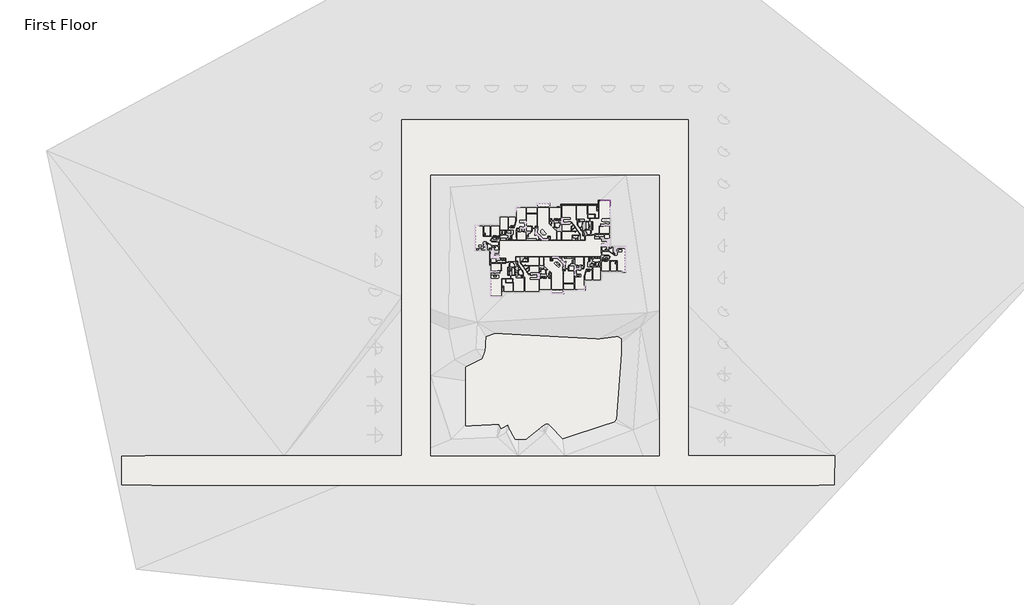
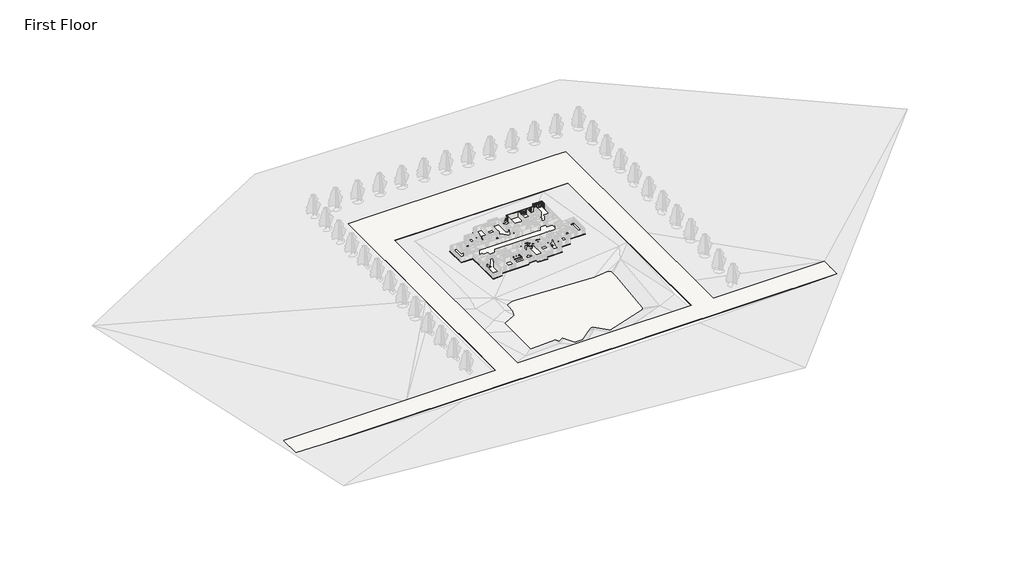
# One storey, part 12 of 17: 35 members, 25 slabs, 12 plates, 5 windows, 4 walls.
"""IFC4 building model written with IfcOpenShell, lengths in millimetres."""

from ifc_helpers import new_model, si_unit, point, frame, frame_2d, origin, place, context, project, spatial, polyline, circle_curve, trimmed, segment, composite_curve, outline, extrude, faceted_brep, transform, mapped, element, save
from components import rectangular_mullion_rectangular_mullion_1_c1bf3533, rectangular_mullion_rectangular_mullion_1_fa3625a1, rectangular_mullion_rectangular_mullion_1_a50b3cda, rectangular_mullion_rectangular_mullion_1_5cd4c5ac, rectangular_mullion_rectangular_mullion_1_7cbf0b94, rectangular_mullion_rectangular_mullion_1_1da01dff, rectangular_mullion_rectangular_mullion_1_6186cc23, rectangular_mullion_rectangular_mullion_1_049a2e78, system_panel_glazed_53e6f9fb, system_panel_glazed_0e039939, system_panel_glazed_cb820e14, system_panel_glazed_5b288161, window_33528cc2

model = new_model("IFC4")

# Units and contexts
model_context = context("Model", 3, world=origin())
ifc_project = project(units=[si_unit("LENGTHUNIT", "METRE", prefix="MILLI")], contexts=[model_context])

# Site, building, storey
site = spatial("IfcSite", under=ifc_project)
building = spatial("IfcBuilding", under=site)
storey = spatial("IfcBuildingStorey", under=building, Name="First Floor", Elevation=0.0)

# Members
placement = place(None, origin())
rectangular_mullion_rectangular_mullion_1_shape = rectangular_mullion_rectangular_mullion_1_c1bf3533(model_context)
element("IfcMember", 1, ObjectType="Rectangular Mullion : Rectangular Mullion 1", at=placement, inside=storey, context=model_context, shape_type="MappedRepresentation", body=[
    mapped(rectangular_mullion_rectangular_mullion_1_shape, transform((57092.6034229, 18983.9169819, 3048.0), x_axis=(0.0, 0.0, 1.0), y_axis=(0.0, -1.0, 0.0), z_axis=(1.0, 0.0, 0.0))),
])
rectangular_mullion_rectangular_mullion_1_2_shape = rectangular_mullion_rectangular_mullion_1_fa3625a1(model_context)
element("IfcMember", 2, ObjectType="Rectangular Mullion : Rectangular Mullion 1", at=placement, inside=storey, context=model_context, shape_type="MappedRepresentation", body=[
    mapped(rectangular_mullion_rectangular_mullion_1_2_shape, transform((54133.5034233, 18983.9169819, 3048.0), x_axis=(0.0, 0.0, 1.0), y_axis=(0.0, -1.0, 0.0), z_axis=(1.0, 0.0, 0.0))),
])
element("IfcMember", 3, ObjectType="Rectangular Mullion : Rectangular Mullion 1", at=placement, inside=storey, context=model_context, shape_type="MappedRepresentation", body=[
    mapped(rectangular_mullion_rectangular_mullion_1_2_shape, transform((55352.7034233, 18983.9169819, 3048.0), x_axis=(0.0, 0.0, 1.0), y_axis=(0.0, -1.0, 0.0), z_axis=(1.0, 0.0, 0.0))),
])
element("IfcMember", 4, ObjectType="Rectangular Mullion : Rectangular Mullion 1", at=placement, inside=storey, context=model_context, shape_type="MappedRepresentation", body=[
    mapped(rectangular_mullion_rectangular_mullion_1_2_shape, transform((56571.9034233, 18983.9169819, 3048.0), x_axis=(0.0, 0.0, 1.0), y_axis=(0.0, -1.0, 0.0), z_axis=(1.0, 0.0, 0.0))),
])
element("IfcMember", 5, ObjectType="Rectangular Mullion : Rectangular Mullion 1", at=placement, inside=storey, context=model_context, shape_type="MappedRepresentation", body=[
    mapped(rectangular_mullion_rectangular_mullion_1_2_shape, transform((57175.1534229, 17720.2669816, 3048.0), x_axis=(0.0, 0.0, 1.0), y_axis=(-1.0, 0.0, 0.0), z_axis=(0.0, -1.0, 0.0))),
])
element("IfcMember", 6, ObjectType="Rectangular Mullion : Rectangular Mullion 1", at=placement, inside=storey, context=model_context, shape_type="MappedRepresentation", body=[
    mapped(rectangular_mullion_rectangular_mullion_1_2_shape, transform((57175.1534229, 16501.0669816, 3048.0), x_axis=(0.0, 0.0, 1.0), y_axis=(-1.0, 0.0, 0.0), z_axis=(0.0, -1.0, 0.0))),
])
element("IfcMember", 7, ObjectType="Rectangular Mullion : Rectangular Mullion 1", at=placement, inside=storey, context=model_context, shape_type="MappedRepresentation", body=[
    mapped(rectangular_mullion_rectangular_mullion_1_2_shape, transform((52977.8034229, 18983.9169819, 0.0), x_axis=(0.0, 0.0, -1.0), y_axis=(0.0, -1.0, 0.0), z_axis=(-1.0, 0.0, 0.0))),
])
element("IfcMember", 8, ObjectType="Rectangular Mullion : Rectangular Mullion 1", at=placement, inside=storey, context=model_context, shape_type="MappedRepresentation", body=[
    mapped(rectangular_mullion_rectangular_mullion_1_2_shape, transform((54197.0034233, 18983.9169819, 0.0), x_axis=(0.0, 0.0, -1.0), y_axis=(0.0, -1.0, 0.0), z_axis=(-1.0, 0.0, 0.0))),
])
element("IfcMember", 9, ObjectType="Rectangular Mullion : Rectangular Mullion 1", at=placement, inside=storey, context=model_context, shape_type="MappedRepresentation", body=[
    mapped(rectangular_mullion_rectangular_mullion_1_2_shape, transform((55416.2034233, 18983.9169819, 0.0), x_axis=(0.0, 0.0, -1.0), y_axis=(0.0, -1.0, 0.0), z_axis=(-1.0, 0.0, 0.0))),
])
element("IfcMember", 10, ObjectType="Rectangular Mullion : Rectangular Mullion 1", at=placement, inside=storey, context=model_context, shape_type="MappedRepresentation", body=[
    mapped(rectangular_mullion_rectangular_mullion_1_2_shape, transform((57175.1534229, 18875.9669819, 0.0), x_axis=(0.0, 0.0, -1.0), y_axis=(-1.0, 0.0, 0.0), z_axis=(0.0, 1.0, 0.0))),
])
element("IfcMember", 11, ObjectType="Rectangular Mullion : Rectangular Mullion 1", at=placement, inside=storey, context=model_context, shape_type="MappedRepresentation", body=[
    mapped(rectangular_mullion_rectangular_mullion_1_2_shape, transform((57175.1534229, 17656.7669816, 0.0), x_axis=(0.0, 0.0, -1.0), y_axis=(-1.0, 0.0, 0.0), z_axis=(0.0, 1.0, 0.0))),
])
element("IfcMember", 12, ObjectType="Rectangular Mullion : Rectangular Mullion 1", at=placement, inside=storey, context=model_context, shape_type="MappedRepresentation", body=[
    mapped(rectangular_mullion_rectangular_mullion_1_2_shape, transform((57175.1534229, 16437.5669816, 0.0), x_axis=(0.0, 0.0, -1.0), y_axis=(-1.0, 0.0, 0.0), z_axis=(0.0, 1.0, 0.0))),
])
element("IfcMember", 13, ObjectType="Rectangular Mullion : Rectangular Mullion 1", at=placement, inside=storey, context=model_context, shape_type="MappedRepresentation", body=[
    mapped(rectangular_mullion_rectangular_mullion_1_shape, transform((56635.4034233, 18983.9169819, 0.0), x_axis=(0.0, 0.0, -1.0), y_axis=(0.0, -1.0, 0.0), z_axis=(-1.0, 0.0, 0.0))),
])
rectangular_mullion_rectangular_mullion_1_3_shape = rectangular_mullion_rectangular_mullion_1_a50b3cda(model_context)
element("IfcMember", 14, ObjectType="Rectangular Mullion : Rectangular Mullion 1", at=placement, inside=storey, context=model_context, shape_type="MappedRepresentation", body=[
    mapped(rectangular_mullion_rectangular_mullion_1_3_shape, transform((57156.1034229, 18983.9169819, 0.0), x_axis=(1.0, 0.0, 0.0), y_axis=(0.0, -1.0, 0.0), z_axis=(0.0, 0.0, -1.0))),
])
rectangular_mullion_rectangular_mullion_1_4_shape = rectangular_mullion_rectangular_mullion_1_5cd4c5ac(model_context)
element("IfcMember", 15, ObjectType="Rectangular Mullion : Rectangular Mullion 1", at=placement, inside=storey, context=model_context, shape_type="MappedRepresentation", body=[
    mapped(rectangular_mullion_rectangular_mullion_1_4_shape, transform((57156.1034229, 18983.9169819, 2165.35), x_axis=(1.0, 0.0, 0.0), y_axis=(0.0, -1.0, 0.0), z_axis=(0.0, 0.0, -1.0))),
])
element("IfcMember", 16, ObjectType="Rectangular Mullion : Rectangular Mullion 1", at=placement, inside=storey, context=model_context, shape_type="MappedRepresentation", body=[
    mapped(rectangular_mullion_rectangular_mullion_1_4_shape, transform((52914.3034229, 18983.9169819, 3048.0), x_axis=(-1.0, 0.0, 0.0), y_axis=(0.0, -1.0, 0.0), z_axis=(0.0, 0.0, 1.0))),
])
element("IfcMember", 17, ObjectType="Rectangular Mullion : Rectangular Mullion 1", at=placement, inside=storey, context=model_context, shape_type="MappedRepresentation", body=[
    mapped(rectangular_mullion_rectangular_mullion_1_4_shape, transform((57175.1534229, 18939.4669819, 3048.0), x_axis=(0.0, 1.0, 0.0), y_axis=(-1.0, 0.0, 0.0), z_axis=(0.0, 0.0, 1.0))),
])
element("IfcMember", 18, ObjectType="Rectangular Mullion : Rectangular Mullion 1", at=placement, inside=storey, context=model_context, shape_type="MappedRepresentation", body=[
    mapped(rectangular_mullion_rectangular_mullion_1_3_shape, transform((52914.3034229, 18983.9169819, 2165.35), x_axis=(-1.0, 0.0, 0.0), y_axis=(0.0, -1.0, 0.0), z_axis=(0.0, 0.0, 1.0))),
])
element("IfcMember", 19, ObjectType="Rectangular Mullion : Rectangular Mullion 1", at=placement, inside=storey, context=model_context, shape_type="MappedRepresentation", body=[
    mapped(rectangular_mullion_rectangular_mullion_1_3_shape, transform((57175.1534229, 18939.4669819, 2165.35), x_axis=(0.0, 1.0, 0.0), y_axis=(-1.0, 0.0, 0.0), z_axis=(0.0, 0.0, 1.0))),
])
rectangular_mullion_rectangular_mullion_1_5_shape = rectangular_mullion_rectangular_mullion_1_7cbf0b94(model_context)
element("IfcMember", 20, ObjectType="Rectangular Mullion : Rectangular Mullion 1", at=placement, inside=storey, context=model_context, shape_type="MappedRepresentation", body=[
    mapped(rectangular_mullion_rectangular_mullion_1_5_shape, transform((54133.5034233, 18983.9169819, 2165.35), x_axis=(0.0, 0.0, 1.0), y_axis=(0.0, -1.0, 0.0), z_axis=(1.0, 0.0, 0.0))),
])
element("IfcMember", 21, ObjectType="Rectangular Mullion : Rectangular Mullion 1", at=placement, inside=storey, context=model_context, shape_type="MappedRepresentation", body=[
    mapped(rectangular_mullion_rectangular_mullion_1_5_shape, transform((55352.7034233, 18983.9169819, 2165.35), x_axis=(0.0, 0.0, 1.0), y_axis=(0.0, -1.0, 0.0), z_axis=(1.0, 0.0, 0.0))),
])
element("IfcMember", 22, ObjectType="Rectangular Mullion : Rectangular Mullion 1", at=placement, inside=storey, context=model_context, shape_type="MappedRepresentation", body=[
    mapped(rectangular_mullion_rectangular_mullion_1_5_shape, transform((56571.9034233, 18983.9169819, 2165.35), x_axis=(0.0, 0.0, 1.0), y_axis=(0.0, -1.0, 0.0), z_axis=(1.0, 0.0, 0.0))),
])
element("IfcMember", 23, ObjectType="Rectangular Mullion : Rectangular Mullion 1", at=placement, inside=storey, context=model_context, shape_type="MappedRepresentation", body=[
    mapped(rectangular_mullion_rectangular_mullion_1_5_shape, transform((57175.1534229, 17720.2669816, 2165.35), x_axis=(0.0, 0.0, 1.0), y_axis=(-1.0, 0.0, 0.0), z_axis=(0.0, -1.0, 0.0))),
])
element("IfcMember", 24, ObjectType="Rectangular Mullion : Rectangular Mullion 1", at=placement, inside=storey, context=model_context, shape_type="MappedRepresentation", body=[
    mapped(rectangular_mullion_rectangular_mullion_1_5_shape, transform((57175.1534229, 16501.0669816, 2165.35), x_axis=(0.0, 0.0, 1.0), y_axis=(-1.0, 0.0, 0.0), z_axis=(0.0, -1.0, 0.0))),
])
rectangular_mullion_rectangular_mullion_1_6_shape = rectangular_mullion_rectangular_mullion_1_1da01dff(model_context)
element("IfcMember", 25, ObjectType="Rectangular Mullion : Rectangular Mullion 1", at=placement, inside=storey, context=model_context, shape_type="MappedRepresentation", body=[
    mapped(rectangular_mullion_rectangular_mullion_1_6_shape, transform((57092.6034229, 18983.9169819, 2165.35), x_axis=(0.0, 0.0, 1.0), y_axis=(0.0, -1.0, 0.0), z_axis=(1.0, 0.0, 0.0))),
])
rectangular_mullion_rectangular_mullion_1_7_shape = rectangular_mullion_rectangular_mullion_1_6186cc23(model_context)
element("IfcMember", 26, ObjectType="Rectangular Mullion : Rectangular Mullion 1", at=placement, inside=storey, context=model_context, shape_type="MappedRepresentation", body=[
    mapped(rectangular_mullion_rectangular_mullion_1_7_shape, transform((54165.2534233, 18983.9169819, 0.0), x_axis=(1.0, 0.0, 0.0), y_axis=(0.0, -1.0, 0.0), z_axis=(0.0, 0.0, -1.0))),
])
element("IfcMember", 27, ObjectType="Rectangular Mullion : Rectangular Mullion 1", at=placement, inside=storey, context=model_context, shape_type="MappedRepresentation", body=[
    mapped(rectangular_mullion_rectangular_mullion_1_7_shape, transform((55384.4534233, 18983.9169819, 0.0), x_axis=(1.0, 0.0, 0.0), y_axis=(0.0, -1.0, 0.0), z_axis=(0.0, 0.0, -1.0))),
])
element("IfcMember", 28, ObjectType="Rectangular Mullion : Rectangular Mullion 1", at=placement, inside=storey, context=model_context, shape_type="MappedRepresentation", body=[
    mapped(rectangular_mullion_rectangular_mullion_1_7_shape, transform((56603.6534233, 18983.9169819, 0.0), x_axis=(1.0, 0.0, 0.0), y_axis=(0.0, -1.0, 0.0), z_axis=(0.0, 0.0, -1.0))),
])
element("IfcMember", 29, ObjectType="Rectangular Mullion : Rectangular Mullion 1", at=placement, inside=storey, context=model_context, shape_type="MappedRepresentation", body=[
    mapped(rectangular_mullion_rectangular_mullion_1_7_shape, transform((57175.1534229, 17688.5169816, 0.0), x_axis=(0.0, -1.0, 0.0), y_axis=(-1.0, 0.0, 0.0), z_axis=(0.0, 0.0, -1.0))),
])
element("IfcMember", 30, ObjectType="Rectangular Mullion : Rectangular Mullion 1", at=placement, inside=storey, context=model_context, shape_type="MappedRepresentation", body=[
    mapped(rectangular_mullion_rectangular_mullion_1_7_shape, transform((57175.1534229, 16469.3169816, 0.0), x_axis=(0.0, -1.0, 0.0), y_axis=(-1.0, 0.0, 0.0), z_axis=(0.0, 0.0, -1.0))),
])
rectangular_mullion_rectangular_mullion_1_8_shape = rectangular_mullion_rectangular_mullion_1_049a2e78(model_context)
element("IfcMember", 31, ObjectType="Rectangular Mullion : Rectangular Mullion 1", at=placement, inside=storey, context=model_context, shape_type="MappedRepresentation", body=[
    mapped(rectangular_mullion_rectangular_mullion_1_8_shape, transform((54165.2534233, 18983.9169819, 2165.35), x_axis=(1.0, 0.0, 0.0), y_axis=(0.0, -1.0, 0.0), z_axis=(0.0, 0.0, -1.0))),
])
element("IfcMember", 32, ObjectType="Rectangular Mullion : Rectangular Mullion 1", at=placement, inside=storey, context=model_context, shape_type="MappedRepresentation", body=[
    mapped(rectangular_mullion_rectangular_mullion_1_8_shape, transform((55384.4534233, 18983.9169819, 2165.35), x_axis=(1.0, 0.0, 0.0), y_axis=(0.0, -1.0, 0.0), z_axis=(0.0, 0.0, -1.0))),
])
element("IfcMember", 33, ObjectType="Rectangular Mullion : Rectangular Mullion 1", at=placement, inside=storey, context=model_context, shape_type="MappedRepresentation", body=[
    mapped(rectangular_mullion_rectangular_mullion_1_8_shape, transform((56603.6534233, 18983.9169819, 2165.35), x_axis=(1.0, 0.0, 0.0), y_axis=(0.0, -1.0, 0.0), z_axis=(0.0, 0.0, -1.0))),
])
element("IfcMember", 34, ObjectType="Rectangular Mullion : Rectangular Mullion 1", at=placement, inside=storey, context=model_context, shape_type="MappedRepresentation", body=[
    mapped(rectangular_mullion_rectangular_mullion_1_8_shape, transform((57175.1534229, 17688.5169816, 2165.35), x_axis=(0.0, -1.0, 0.0), y_axis=(-1.0, 0.0, 0.0), z_axis=(0.0, 0.0, -1.0))),
])
element("IfcMember", 35, ObjectType="Rectangular Mullion : Rectangular Mullion 1", at=placement, inside=storey, context=model_context, shape_type="MappedRepresentation", body=[
    mapped(rectangular_mullion_rectangular_mullion_1_8_shape, transform((57175.1534229, 16469.3169816, 2165.35), x_axis=(0.0, -1.0, 0.0), y_axis=(-1.0, 0.0, 0.0), z_axis=(0.0, 0.0, -1.0))),
])

# Plates
system_panel_glazed_shape = system_panel_glazed_53e6f9fb(model_context)
element("IfcPlate", 36, ObjectType="System Panel : Glazed", at=placement, inside=storey, context=model_context, shape_type="MappedRepresentation", body=[
    mapped(system_panel_glazed_shape, transform((53555.6534231, 18983.9169819, 63.5), x_axis=(1.0, 0.0, 0.0), y_axis=(0.0, 1.0, 0.0), z_axis=(0.0, 0.0, 1.0))),
])
element("IfcPlate", 37, ObjectType="System Panel : Glazed", at=placement, inside=storey, context=model_context, shape_type="MappedRepresentation", body=[
    mapped(system_panel_glazed_shape, transform((57175.1534229, 18298.1169818, 63.5), x_axis=(0.0, -1.0, 0.0), y_axis=(1.0, 0.0, 0.0), z_axis=(0.0, 0.0, 1.0))),
])
element("IfcPlate", 38, ObjectType="System Panel : Glazed", at=placement, inside=storey, context=model_context, shape_type="MappedRepresentation", body=[
    mapped(system_panel_glazed_shape, transform((54774.8534233, 18983.9169819, 63.5), x_axis=(1.0, 0.0, 0.0), y_axis=(0.0, 1.0, 0.0), z_axis=(0.0, 0.0, 1.0))),
])
element("IfcPlate", 39, ObjectType="System Panel : Glazed", at=placement, inside=storey, context=model_context, shape_type="MappedRepresentation", body=[
    mapped(system_panel_glazed_shape, transform((55994.0534233, 18983.9169819, 63.5), x_axis=(1.0, 0.0, 0.0), y_axis=(0.0, 1.0, 0.0), z_axis=(0.0, 0.0, 1.0))),
])
element("IfcPlate", 40, ObjectType="System Panel : Glazed", at=placement, inside=storey, context=model_context, shape_type="MappedRepresentation", body=[
    mapped(system_panel_glazed_shape, transform((57175.1534229, 17078.9169816, 63.5), x_axis=(0.0, -1.0, 0.0), y_axis=(1.0, 0.0, 0.0), z_axis=(0.0, 0.0, 1.0))),
])
system_panel_glazed_2_shape = system_panel_glazed_0e039939(model_context)
element("IfcPlate", 41, ObjectType="System Panel : Glazed", at=placement, inside=storey, context=model_context, shape_type="MappedRepresentation", body=[
    mapped(system_panel_glazed_2_shape, transform((56864.0034231, 18983.9169819, 63.5), x_axis=(1.0, 0.0, 0.0), y_axis=(0.0, 1.0, 0.0), z_axis=(0.0, 0.0, 1.0))),
])
system_panel_glazed_3_shape = system_panel_glazed_cb820e14(model_context)
element("IfcPlate", 42, ObjectType="System Panel : Glazed", at=placement, inside=storey, context=model_context, shape_type="MappedRepresentation", body=[
    mapped(system_panel_glazed_3_shape, transform((53555.6534231, 18983.9169819, 2197.1), x_axis=(1.0, 0.0, 0.0), y_axis=(0.0, 1.0, 0.0), z_axis=(0.0, 0.0, 1.0))),
])
element("IfcPlate", 43, ObjectType="System Panel : Glazed", at=placement, inside=storey, context=model_context, shape_type="MappedRepresentation", body=[
    mapped(system_panel_glazed_3_shape, transform((54774.8534233, 18983.9169819, 2197.1), x_axis=(1.0, 0.0, 0.0), y_axis=(0.0, 1.0, 0.0), z_axis=(0.0, 0.0, 1.0))),
])
element("IfcPlate", 44, ObjectType="System Panel : Glazed", at=placement, inside=storey, context=model_context, shape_type="MappedRepresentation", body=[
    mapped(system_panel_glazed_3_shape, transform((55994.0534233, 18983.9169819, 2197.1), x_axis=(1.0, 0.0, 0.0), y_axis=(0.0, 1.0, 0.0), z_axis=(0.0, 0.0, 1.0))),
])
element("IfcPlate", 45, ObjectType="System Panel : Glazed", at=placement, inside=storey, context=model_context, shape_type="MappedRepresentation", body=[
    mapped(system_panel_glazed_3_shape, transform((57175.1534229, 18298.1169818, 2197.1), x_axis=(0.0, -1.0, 0.0), y_axis=(1.0, 0.0, 0.0), z_axis=(0.0, 0.0, 1.0))),
])
element("IfcPlate", 46, ObjectType="System Panel : Glazed", at=placement, inside=storey, context=model_context, shape_type="MappedRepresentation", body=[
    mapped(system_panel_glazed_3_shape, transform((57175.1534229, 17078.9169816, 2197.1), x_axis=(0.0, -1.0, 0.0), y_axis=(1.0, 0.0, 0.0), z_axis=(0.0, 0.0, 1.0))),
])
system_panel_glazed_4_shape = system_panel_glazed_5b288161(model_context)
element("IfcPlate", 47, ObjectType="System Panel : Glazed", at=placement, inside=storey, context=model_context, shape_type="MappedRepresentation", body=[
    mapped(system_panel_glazed_4_shape, transform((56864.0034231, 18983.9169819, 2197.1), x_axis=(1.0, 0.0, 0.0), y_axis=(0.0, 1.0, 0.0), z_axis=(0.0, 0.0, 1.0))),
])

# Slabs
element("IfcSlab", 48, ObjectType="Marble", at=placement, inside=storey, context=model_context, shape_type="SweptSolid", body=[
    extrude(outline(polyline([(6504.0261709, -1173.468869), (7494.6261709, -1173.468869), (7494.6261709, -1846.568869), (6504.0261709, -1846.568869), (6504.0261709, -1173.468869)]), holes=[composite_curve([segment(trimmed(circle_curve(frame_2d((6999.3261709, -1529.068869)), 203.2), [point((6796.1261709, -1529.068869))], [point((7202.5261708, -1529.068869))], True, "CARTESIAN"), True, "CONTINUOUS"), segment(trimmed(circle_curve(frame_2d((6999.3261709, -1529.068869)), 203.2), [point((7202.5261708, -1529.068869))], [point((6796.1261709, -1529.068869))], True, "CARTESIAN"), True, "CONTINUOUS")], self_intersect=False)]), frame((0.0, 0.0, 736.6), z_axis=(0.0, 0.0, 1.0), x_axis=(1.0, 0.0, 0.0)), (0.0, 0.0, 1.0), 38.1),
])
element("IfcSlab", 49, ObjectType="Marble", at=placement, inside=storey, context=model_context, shape_type="SweptSolid", body=[
    extrude(outline(polyline([(2093.0864714, 129.9694727), (3375.7864714, 129.9694727), (3375.7864714, -543.1305273), (2093.0864714, -543.1305273), (2093.0864714, 129.9694727)])), frame((0.0, 0.0, 876.3), z_axis=(0.0, 0.0, 1.0), x_axis=(1.0, 0.0, 0.0)), (0.0, 0.0, 1.0), 38.1),
])
element("IfcSlab", 50, ObjectType="Marble", at=placement, inside=storey, context=model_context, shape_type="SweptSolid", body=[
    extrude(outline(polyline([(4880.7003923, -1846.568869), (1191.3503923, -1846.568869), (1191.3503923, -1205.218869), (3957.3264687, -1205.218869), (4239.3503923, -923.1949454), (4239.3503923, -631.546226), (4880.7003923, -631.546226), (4880.7003923, -1846.568869)]), holes=[polyline([(3128.1003923, -1808.468869), (3128.1003923, -1275.068869), (2061.3003923, -1275.068869), (2061.3003923, -1808.468869), (3128.1003923, -1808.468869)])]), frame((0.0, 0.0, 876.3), z_axis=(0.0, 0.0, 1.0), x_axis=(1.0, 0.0, 0.0)), (0.0, 0.0, 1.0), 38.1),
    extrude(outline(polyline([(4239.3503923, 131.5202225), (4239.3503923, 598.1185137), (4880.7003923, 598.1185137), (4880.7003923, 131.5202225), (4239.3503923, 131.5202225)])), frame((0.0, 0.0, 876.3), z_axis=(0.0, 0.0, 1.0), x_axis=(1.0, 0.0, 0.0)), (0.0, 0.0, 1.0), 38.1),
])
element("IfcSlab", 51, ObjectType="Marble", at=placement, inside=storey, context=model_context, shape_type="SweptSolid", body=[
    extrude(outline(composite_curve([segment(polyline([(7170.3456159, -12486.5347765), (10488.6061289, -12486.5347765), (10488.6061289, -13305.0808673)]), True, "CONTINUOUS"), segment(trimmed(circle_curve(frame_2d((10183.8061289, -13305.0808673)), 304.8), [point((10488.6061289, -13305.0808673))], [point((10180.1154029, -13609.8585216))], False, "CARTESIAN"), True, "CONTINUOUS"), segment(polyline([(10180.1154029, -13609.8585216), (7170.3456159, -13609.8585216), (7170.3456159, -12486.5347765)]), True, "CONTINUOUS")], self_intersect=False), holes=[polyline([(9469.7910491, -13082.6391551), (9469.7910491, -12555.3066357), (8402.0211605, -12555.3066357), (8402.0211605, -13082.6391551), (9469.7910491, -13082.6391551)])]), frame((0.0, 0.0, 876.3), z_axis=(0.0, 0.0, 1.0), x_axis=(1.0, 0.0, 0.0)), (0.0, 0.0, 1.0), 38.1),
])
element("IfcSlab", 52, ObjectType="Marble", at=placement, inside=storey, context=model_context, shape_type="SweptSolid", body=[
    extrude(outline(polyline([(10127.0683728, -11419.8368662), (9246.0058728, -11419.8368662), (9246.0058728, -10794.1493344), (10127.0683728, -10794.1493344), (10127.0683728, -11419.8368662)])), frame((0.0, 0.0, 876.3), z_axis=(0.0, 0.0, 1.0), x_axis=(1.0, 0.0, 0.0)), (0.0, 0.0, 1.0), 38.1),
    extrude(outline(polyline([(8484.0058728, -11419.8368662), (7175.9058728, -11419.8368662), (7175.9058728, -10772.1368662), (8484.0058728, -10772.1368662), (8484.0058728, -11419.8368662)])), frame((0.0, 0.0, 876.3), z_axis=(0.0, 0.0, 1.0), x_axis=(1.0, 0.0, 0.0)), (0.0, 0.0, 1.0), 38.1),
])
element("IfcSlab", 53, ObjectType="Marble", at=placement, inside=storey, context=model_context, shape_type="SweptSolid", body=[
    extrude(outline(polyline([(13263.1799806, -6024.8371067), (12272.5799806, -6024.8371067), (12272.5799806, -5370.7871067), (13263.1799806, -5370.7871067), (13263.1799806, -6024.8371067)]), holes=[composite_curve([segment(trimmed(circle_curve(frame_2d((12767.8799806, -5669.2371067)), 203.2), [point((12971.0799806, -5669.2371067))], [point((12564.6799806, -5669.2371067))], True, "CARTESIAN"), True, "CONTINUOUS"), segment(trimmed(circle_curve(frame_2d((12767.8799806, -5669.2371067)), 203.2), [point((12564.6799806, -5669.2371067))], [point((12971.0799806, -5669.2371067))], True, "CARTESIAN"), True, "CONTINUOUS")], self_intersect=False)]), frame((0.0, 0.0, 736.6), z_axis=(0.0, 0.0, 1.0), x_axis=(1.0, 0.0, 0.0)), (0.0, 0.0, 1.0), 38.1),
])
element("IfcSlab", 54, ObjectType="Marble", at=placement, inside=storey, context=model_context, shape_type="SweptSolid", body=[
    extrude(outline(polyline([(17170.9691338, -12191.1493344), (17170.9691338, -10057.5493344), (17818.6691338, -10057.5493344), (17818.6691338, -12191.1493344), (17170.9691338, -12191.1493344)]), holes=[composite_curve([segment(trimmed(circle_curve(frame_2d((17501.1691338, -10590.9493344)), 203.2), [point((17704.3691338, -10590.9493344))], [point((17297.9691338, -10590.9493344))], True, "CARTESIAN"), True, "CONTINUOUS"), segment(trimmed(circle_curve(frame_2d((17501.1691338, -10590.9493344)), 203.2), [point((17297.9691338, -10590.9493344))], [point((17704.3691338, -10590.9493344))], True, "CARTESIAN"), True, "CONTINUOUS")], self_intersect=False), composite_curve([segment(trimmed(circle_curve(frame_2d((17501.1691338, -11657.7493344)), 203.2), [point((17704.3691338, -11657.7493344))], [point((17297.9691338, -11657.7493344))], True, "CARTESIAN"), True, "CONTINUOUS"), segment(trimmed(circle_curve(frame_2d((17501.1691338, -11657.7493344)), 203.2), [point((17297.9691338, -11657.7493344))], [point((17704.3691338, -11657.7493344))], True, "CARTESIAN"), True, "CONTINUOUS")], self_intersect=False)]), frame((0.0, 0.0, 736.6), z_axis=(0.0, 0.0, 1.0), x_axis=(1.0, 0.0, 0.0)), (0.0, 0.0, 1.0), 38.1),
])
element("IfcSlab", 55, ObjectType="Marble", at=placement, inside=storey, context=model_context, shape_type="SweptSolid", body=[
    extrude(outline(polyline([(26726.0365862, -12399.1051714), (26459.3365862, -12132.4051714), (26332.3365862, -12132.4051714), (26332.3365862, -11468.9236347), (27373.7365862, -11468.9236347), (27373.7365862, -14082.7941728), (23790.7886679, -14082.7941728), (23790.7886679, -13435.0941728), (26443.5550494, -13435.0941728), (26726.0365862, -13152.6126361), (26726.0365862, -12399.1051714)])), frame((0.0, 0.0, 876.3), z_axis=(0.0, 0.0, 1.0), x_axis=(1.0, 0.0, 0.0)), (0.0, 0.0, 1.0), 38.1),
    extrude(outline(polyline([(24811.2196169, -12116.6236347), (24811.2196169, -11468.9236347), (25573.2196169, -11468.9236347), (25573.2196169, -12116.6236347), (24811.2196169, -12116.6236347)])), frame((0.0, 0.0, 876.3), z_axis=(0.0, 0.0, 1.0), x_axis=(1.0, 0.0, 0.0)), (0.0, 0.0, 1.0), 38.1),
])
element("IfcSlab", 56, ObjectType="Marble", at=placement, inside=storey, context=model_context, shape_type="SweptSolid", body=[
    extrude(outline(polyline([(22564.103268, -5413.3917963), (21573.503268, -5413.3917963), (21573.503268, -4740.2917963), (22564.103268, -4740.2917963), (22564.103268, -5413.3917963)]), holes=[composite_curve([segment(trimmed(circle_curve(frame_2d((22068.803268, -5057.7917963)), 203.2), [point((22272.003268, -5057.7917963))], [point((21865.603268, -5057.7917963))], True, "CARTESIAN"), True, "CONTINUOUS"), segment(trimmed(circle_curve(frame_2d((22068.803268, -5057.7917963)), 203.2), [point((21865.603268, -5057.7917963))], [point((22272.003268, -5057.7917963))], True, "CARTESIAN"), True, "CONTINUOUS")], self_intersect=False)]), frame((0.0, 0.0, 736.6), z_axis=(0.0, 0.0, 1.0), x_axis=(1.0, 0.0, 0.0)), (0.0, 0.0, 1.0), 38.1),
])
element("IfcSlab", 57, ObjectType="Marble", at=placement, inside=storey, context=model_context, shape_type="SweptSolid", body=[
    extrude(outline(polyline([(29200.6971515, -9157.474445), (29200.6971515, -9798.824445), (28165.6471515, -9798.824445), (28165.6471515, -10808.474445), (27485.9749422, -10808.474445), (27488.0365862, -9155.3385671), (29200.6971515, -9157.474445)]), holes=[composite_curve([segment(trimmed(circle_curve(frame_2d((28664.1337351, -9476.076992)), 203.2), [point((28460.9338931, -9475.8235793))], [point((28867.3335771, -9476.3304048))], True, "CARTESIAN"), True, "CONTINUOUS"), segment(trimmed(circle_curve(frame_2d((28664.1337351, -9476.076992)), 203.2), [point((28867.3335771, -9476.3304048))], [point((28460.9338931, -9475.8235793))], True, "CARTESIAN"), True, "CONTINUOUS")], self_intersect=False), composite_curve([segment(trimmed(circle_curve(frame_2d((27822.5243209, -10271.6893858)), 203.2), [point((27619.324479, -10271.435973))], [point((28025.7241629, -10271.9427985))], True, "CARTESIAN"), True, "CONTINUOUS"), segment(trimmed(circle_curve(frame_2d((27822.5243209, -10271.6893858)), 203.2), [point((28025.7241629, -10271.9427985))], [point((27619.324479, -10271.435973))], True, "CARTESIAN"), True, "CONTINUOUS")], self_intersect=False)]), frame((0.0, 0.0, 736.6), z_axis=(0.0, 0.0, 1.0), x_axis=(1.0, 0.0, 0.0)), (0.0, 0.0, 1.0), 38.1),
])
element("IfcSlab", 58, ObjectType="Marble", at=placement, inside=storey, context=model_context, shape_type="SweptSolid", body=[
    extrude(outline(polyline([(50352.4508306, -7515.2417963), (49361.8508306, -7515.2417963), (49361.8508306, -6842.1417963), (50352.4508306, -6842.1417963), (50352.4508306, -7515.2417963)]), holes=[composite_curve([segment(trimmed(circle_curve(frame_2d((49857.1508306, -7159.6417963)), 203.2), [point((50060.3508306, -7159.6417963))], [point((49653.9508306, -7159.6417963))], True, "CARTESIAN"), True, "CONTINUOUS"), segment(trimmed(circle_curve(frame_2d((49857.1508306, -7159.6417963)), 203.2), [point((49653.9508306, -7159.6417963))], [point((50060.3508306, -7159.6417963))], True, "CARTESIAN"), True, "CONTINUOUS")], self_intersect=False)]), frame((0.0, 0.0, 736.6), z_axis=(0.0, 0.0, 1.0), x_axis=(1.0, 0.0, 0.0)), (0.0, 0.0, 1.0), 38.1),
])
element("IfcSlab", 59, ObjectType="Marble", at=placement, inside=storey, context=model_context, shape_type="SweptSolid", body=[
    extrude(outline(polyline([(57686.1282154, -1175.7137558), (56695.5282154, -1175.7137558), (56695.5282154, -485.1512558), (57686.1282154, -485.1512558), (57686.1282154, -1175.7137558)]), holes=[composite_curve([segment(trimmed(circle_curve(frame_2d((57190.8282154, -820.1137558)), 203.2), [point((57394.0282154, -820.1137558))], [point((56987.6282154, -820.1137558))], True, "CARTESIAN"), True, "CONTINUOUS"), segment(trimmed(circle_curve(frame_2d((57190.8282154, -820.1137558)), 203.2), [point((56987.6282154, -820.1137558))], [point((57394.0282154, -820.1137558))], True, "CARTESIAN"), True, "CONTINUOUS")], self_intersect=False)]), frame((0.0, 0.0, 736.6), z_axis=(0.0, 0.0, 1.0), x_axis=(1.0, 0.0, 0.0)), (0.0, 0.0, 1.0), 38.1),
])
element("IfcSlab", 60, ObjectType="Marble", at=placement, inside=storey, context=model_context, shape_type="SweptSolid", body=[
    extrude(outline(polyline([(55037.4914684, -4965.5451097), (56028.0914684, -4965.5451097), (56028.0914684, -5638.6451097), (55037.4914684, -5638.6451097), (55037.4914684, -4965.5451097)]), holes=[composite_curve([segment(trimmed(circle_curve(frame_2d((55532.7914684, -5321.1451097)), 203.2), [point((55329.5914684, -5321.1451097))], [point((55735.9914684, -5321.1451097))], True, "CARTESIAN"), True, "CONTINUOUS"), segment(trimmed(circle_curve(frame_2d((55532.7914684, -5321.1451097)), 203.2), [point((55735.9914684, -5321.1451097))], [point((55329.5914684, -5321.1451097))], True, "CARTESIAN"), True, "CONTINUOUS")], self_intersect=False)]), frame((0.0, 0.0, 736.6), z_axis=(0.0, 0.0, 1.0), x_axis=(1.0, 0.0, 0.0)), (0.0, 0.0, 1.0), 38.1),
])
element("IfcSlab", 61, ObjectType="Marble", at=placement, inside=storey, context=model_context, shape_type="SweptSolid", body=[
    extrude(outline(polyline([(52940.1152169, -5356.2417963), (50806.5152169, -5356.2417963), (50806.5152169, -4708.5417963), (52940.1152169, -4708.5417963), (52940.1152169, -5356.2417963)]), holes=[composite_curve([segment(trimmed(circle_curve(frame_2d((51339.9152169, -5026.0417963)), 203.2), [point((51339.9152169, -4822.8417963))], [point((51339.9152169, -5229.2417963))], True, "CARTESIAN"), True, "CONTINUOUS"), segment(trimmed(circle_curve(frame_2d((51339.9152169, -5026.0417963)), 203.2), [point((51339.9152169, -5229.2417963))], [point((51339.9152169, -4822.8417963))], True, "CARTESIAN"), True, "CONTINUOUS")], self_intersect=False), composite_curve([segment(trimmed(circle_curve(frame_2d((52406.7152169, -5026.0417963)), 203.2), [point((52406.7152169, -4822.8417963))], [point((52406.7152169, -5229.2417963))], True, "CARTESIAN"), True, "CONTINUOUS"), segment(trimmed(circle_curve(frame_2d((52406.7152169, -5026.0417963)), 203.2), [point((52406.7152169, -5229.2417963))], [point((52406.7152169, -4822.8417963))], True, "CARTESIAN"), True, "CONTINUOUS")], self_intersect=False)]), frame((0.0, 0.0, 736.6), z_axis=(0.0, 0.0, 1.0), x_axis=(1.0, 0.0, 0.0)), (0.0, 0.0, 1.0), 38.1),
])
element("IfcSlab", 62, ObjectType="Marble", at=placement, inside=storey, context=model_context, shape_type="SweptSolid", body=[
    extrude(outline(polyline([(18625.1191338, -10424.5404467), (18625.1191338, -11415.1404467), (17952.0191338, -11415.1404467), (17952.0191338, -10424.5404467), (18625.1191338, -10424.5404467)]), holes=[composite_curve([segment(trimmed(circle_curve(frame_2d((18269.5191338, -10919.8404467)), 203.2), [point((18269.5191338, -10716.6404467))], [point((18269.5191338, -11123.0404467))], True, "CARTESIAN"), True, "CONTINUOUS"), segment(trimmed(circle_curve(frame_2d((18269.5191338, -10919.8404467)), 203.2), [point((18269.5191338, -11123.0404467))], [point((18269.5191338, -10716.6404467))], True, "CARTESIAN"), True, "CONTINUOUS")], self_intersect=False)]), frame((0.0, 0.0, 736.6), z_axis=(0.0, 0.0, 1.0), x_axis=(1.0, 0.0, 0.0)), (0.0, 0.0, 1.0), 38.1),
])
element("IfcSlab", 63, ObjectType="Marble", at=placement, inside=storey, context=model_context, shape_type="SweptSolid", body=[
    extrude(outline(polyline([(42109.9470292, -4709.6547708), (42109.9470292, -5347.9350586), (37935.0254015, -5347.9350586), (37935.8278998, -4704.4491807), (42109.9470292, -4709.6547708)]), holes=[composite_curve([segment(trimmed(circle_curve(frame_2d((38444.5076506, -5036.7948647)), 203.2), [point((38241.3078086, -5036.541452))], [point((38647.7074926, -5037.0482775))], True, "CARTESIAN"), True, "CONTINUOUS"), segment(trimmed(circle_curve(frame_2d((38444.5076506, -5036.7948647)), 203.2), [point((38647.7074926, -5037.0482775))], [point((38241.3078086, -5036.541452))], True, "CARTESIAN"), True, "CONTINUOUS")], self_intersect=False), composite_curve([segment(trimmed(circle_curve(frame_2d((41597.5582188, -5037.9193913)), 203.2), [point((41394.3583769, -5037.6659786))], [point((41800.7580608, -5038.1728041))], True, "CARTESIAN"), True, "CONTINUOUS"), segment(trimmed(circle_curve(frame_2d((41597.5582188, -5037.9193913)), 203.2), [point((41800.7580608, -5038.1728041))], [point((41394.3583769, -5037.6659786))], True, "CARTESIAN"), True, "CONTINUOUS")], self_intersect=False)]), frame((0.0, 0.0, 736.6), z_axis=(0.0, 0.0, 1.0), x_axis=(1.0, 0.0, 0.0)), (0.0, 0.0, 1.0), 38.1),
])
element("IfcSlab", 64, ObjectType="Marble", at=placement, inside=storey, context=model_context, shape_type="SweptSolid", body=[
    extrude(outline(polyline([(35406.7151666, -4708.5417963), (36619.6310114, -5921.4576411), (36166.1280773, -6374.9605752), (35141.0592984, -5349.8917963), (33083.0966966, -5349.8917963), (33083.0966966, -4708.5417963), (35406.7151666, -4708.5417963)])), frame((0.0, 0.0, 876.3), z_axis=(0.0, 0.0, 1.0), x_axis=(1.0, 0.0, 0.0)), (0.0, 0.0, 1.0), 38.1),
])
element("IfcSlab", 65, ObjectType="Marble", at=placement, inside=storey, context=model_context, shape_type="SweptSolid", body=[
    extrude(outline(polyline([(36034.9998304, -8668.0806982), (35572.1975365, -9130.882992), (33803.0870807, -7361.7725362), (34265.8893745, -6898.9702424), (35154.2965233, -6898.9702424), (36034.9998304, -7779.6735494), (36034.9998304, -8668.0806982)]), holes=[polyline([(35919.7261131, -7763.1826495), (35169.8680031, -7013.3245394), (34793.7635972, -7389.4289453), (35543.6217072, -8139.2870553), (35919.7261131, -7763.1826495)])]), frame((0.0, 0.0, 876.3), z_axis=(0.0, 0.0, 1.0), x_axis=(1.0, 0.0, 0.0)), (0.0, 0.0, 1.0), 38.1),
])
element("IfcSlab", 66, ObjectType="Marble", at=placement, inside=storey, context=model_context, shape_type="SweptSolid", body=[
    extrude(outline(polyline([(38191.5400155, -7503.2714212), (38191.5400155, -8722.4714212), (37550.1900155, -8722.4714212), (37550.1900155, -7780.3116594), (36690.6351864, -6920.7568303), (37149.8303055, -6461.5617112), (38191.5400155, -7503.2714212)])), frame((0.0, 0.0, 876.3), z_axis=(0.0, 0.0, 1.0), x_axis=(1.0, 0.0, 0.0)), (0.0, 0.0, 1.0), 38.1),
])
element("IfcSlab", 67, ObjectType="Marble", at=placement, inside=storey, context=model_context, shape_type="SweptSolid", body=[
    extrude(outline(polyline([(62097.0679149, -2479.1520975), (60814.3679149, -2479.1520975), (60814.3679149, -1806.0520975), (62097.0679149, -1806.0520975), (62097.0679149, -2479.1520975)])), frame((0.0, 0.0, 876.3), z_axis=(0.0, 0.0, 1.0), x_axis=(1.0, 0.0, 0.0)), (0.0, 0.0, 1.0), 38.1),
])
element("IfcSlab", 68, ObjectType="Marble", at=placement, inside=storey, context=model_context, shape_type="SweptSolid", body=[
    extrude(outline(polyline([(44031.5501082, -10093.7376998), (43151.7983098, -10093.7376998), (42865.5970292, -10379.9389804), (42865.5970292, -10671.5876998), (42217.8970292, -10671.5876998), (42217.8970292, -9452.3876998), (44031.5501082, -9452.3876998), (44031.5501082, -10093.7376998)])), frame((0.0, 0.0, 876.3), z_axis=(0.0, 0.0, 1.0), x_axis=(1.0, 0.0, 0.0)), (0.0, 0.0, 1.0), 38.1),
    extrude(outline(polyline([(43145.4483098, -12005.0876998), (44916.6470292, -12005.0876998), (44916.6470292, -13046.2065732), (42217.8970292, -13046.2065732), (42217.8970292, -11433.5876998), (42865.5970292, -11433.5876998), (42865.5970292, -11725.2364192), (43145.4483098, -12005.0876998)]), holes=[polyline([(43202.4116618, -12614.4065732), (44273.2983112, -12614.4065732), (44273.2983112, -12081.2876998), (43202.4116618, -12081.2876998), (43202.4116618, -12614.4065732)])]), frame((0.0, 0.0, 876.3), z_axis=(0.0, 0.0, 1.0), x_axis=(1.0, 0.0, 0.0)), (0.0, 0.0, 1.0), 38.1),
])
element("IfcSlab", 69, ObjectType="Marble", at=placement, inside=storey, context=model_context, shape_type="SweptSolid", body=[
    extrude(outline(polyline([(23927.3000259, -12349.6936972), (23602.9271341, -12349.6936972), (23302.1554503, -11920.1472165), (23927.3000259, -11482.4162723), (23927.3000259, -12349.6936972)])), frame((0.0, 0.0, 876.3), z_axis=(0.0, 0.0, 1.0), x_axis=(1.0, 0.0, 0.0)), (0.0, 0.0, 1.0), 38.1),
])
element("IfcSlab", 70, ObjectType="Pad 1", at=placement, inside=storey, context=model_context, shape_type="SweptSolid", body=[
    extrude(outline(polyline([(-17909.1723407, 52775.2601355), (83444.2270808, 52775.2601355), (89852.8460487, 52775.2601355), (89852.8460487, -88050.3872256), (151203.4030077, -88050.3872256), (151203.4030077, -100242.3872256), (-147500.5969923, -100242.3872256), (-147500.5969923, -88050.3872256), (-30101.1723407, -88050.3872256), (-30101.1723407, 52775.2601355), (-17909.1723407, 52775.2601355)]), holes=[polyline([(77660.8460487, 29542.5920526), (-17909.1723407, 29542.5920526), (-17909.1723407, -88050.3872256), (77660.8460487, -88050.3872256), (77660.8460487, 29542.5920526)])]), frame((0.0, 0.0, -304.8), z_axis=(0.0, 0.0, 1.0), x_axis=(1.0, 0.0, 0.0)), (0.0, 0.0, 1.0), 304.8),
])
element("IfcSlab", 71, ObjectType="Water", at=placement, inside=storey, context=model_context, shape_type="SweptSolid", body=[
    extrude(outline(polyline([(61901.3712704, -36383.2921444), (61901.3712704, -81042.9995612), (-3275.795358, -81042.9995612), (-3275.795358, -36383.2921444), (61901.3712704, -36383.2921444)])), frame((0.0, 0.0, -4610.1), z_axis=(0.0, 0.0, 1.0), x_axis=(1.0, 0.0, 0.0)), (0.0, 0.0, 1.0), 38.1),
])
element("IfcSlab", 72, ObjectType="Wood Joist 10\" - Wood Finish", at=placement, inside=storey, context=model_context, shape_type="SweptSolid", body=[
    extrude(outline(polyline([(6887.7706159, -21474.3871067), (6887.7706159, -16921.6996859), (6887.7706159, -8223.7871859), (6821.0956159, -8223.7871859), (6821.0956159, -2146.606369), (547.2956159, -2146.606369), (547.2956159, 8643.631131), (2288.7831159, 8643.631131), (2288.7831159, 8712.6302849), (10681.8956159, 8712.6302849), (10681.8956159, 12370.2302849), (17537.5371608, 12370.2302849), (17537.5371608, 16347.7666823), (26420.4323571, 16347.7666823), (26420.4323571, 17799.5240339), (31777.7798474, 17799.5240339), (31777.7798474, 16359.6615339), (36533.8428001, 16359.6615339), (36533.8428001, 17246.6789258), (52157.0659229, 17246.6789258), (52157.0659229, 19125.2044819), (52914.3034229, 19125.2044819), (52914.3034229, 19047.4169819), (57238.6534229, 19047.4169819), (57238.6534229, 11632.2044819), (57302.3837704, 11632.2044819), (57302.3837704, -202.5762558), (63673.0212704, -202.5762558), (63673.0212704, -3449.276335), (63673.0212704, -11061.8129097), (53508.2587704, -11061.8129097), (53508.2587704, -14719.4129097), (46652.6172255, -14719.4129097), (46652.6172255, -18696.9493072), (37769.7220292, -18696.9493072), (37769.7220292, -20148.7066587), (32412.3745389, -20148.7066587), (32412.3745389, -18708.8441587), (27656.3115862, -18708.8441587), (27656.3115862, -19595.8615506), (12033.0884633, -19595.8615506), (12033.0884633, -21474.3871067), (6887.7706159, -21474.3871067)]), holes=[polyline([(10607.383999, -2106.918869), (7360.8456159, -2106.918869), (7360.8456159, -5085.0371067), (10620.083999, -5085.0371067), (10620.083999, -4062.718869), (8397.583999, -4062.718869), (8397.583999, -3122.918869), (10607.383999, -3122.918869), (10607.383999, -2106.918869)]), polyline([(53698.8646836, -151.7762558), (56905.5087704, -151.7762558), (56905.5087704, 2761.2544819), (53698.8646836, 2761.2544819), (53698.8646836, 1770.6544819), (55883.2646836, 1770.6544819), (55883.2646836, 856.2544819), (53698.8646836, 856.2544819), (53698.8646836, -151.7762558)])]), frame((0.0, 0.0, -273.05), z_axis=(0.0, 0.0, 1.0), x_axis=(1.0, 0.0, 0.0)), (0.0, 0.0, 1.0), 273.05),
])

# Walls
element("IfcWall", 73, ObjectType="Exterior - Brick on Wood Stud", at=placement, inside=storey, context=model_context, shape_type="Brep", body=[
    faceted_brep([(52157.0659229, 18842.6294819, 0.0), (52439.6409229, 18842.6294819, 0.0), (52914.3034229, 18842.6294819, 0.0), (52914.3034229, 18842.6294819, 3048.0), (52439.6409229, 18842.6294819, 3048.0), (52157.0659229, 18842.6294819, 3048.0), (52157.0659229, 19125.2044819, 0.0), (52157.0659229, 19125.2044819, 3048.0), (52914.3034229, 19125.2044819, 3048.0), (52914.3034229, 19125.2044819, 0.0)], [[[0, 1, 2, 3, 4, 5]], [[6, 7, 8, 9]], [[2, 1, 0, 6, 9]], [[3, 2, 9, 8]], [[5, 4, 3, 8, 7]], [[0, 5, 7, 6]]]),
])
element("IfcWall", 74, ObjectType="Exterior - Brick on Wood Stud", at=placement, inside=storey, context=model_context, shape_type="Brep", body=[
    faceted_brep([(36533.8428001, 16964.1039258, 0.0), (36816.4178001, 16964.1039258, 0.0), (42890.1928001, 16964.1039258, 0.0), (43004.4928001, 16964.1039258, 0.0), (47578.7440143, 16964.1039258, 0.0), (47693.0440143, 16964.1039258, 0.0), (51557.7940158, 16964.1039258, 0.0), (51672.0940158, 16964.1039258, 0.0), (52325.3409229, 16964.1039258, 0.0), (52439.6409229, 16964.1039258, 0.0), (52439.6409229, 16964.1039258, 3048.0), (52325.3409229, 16964.1039258, 3048.0), (51672.0940158, 16964.1039258, 3048.0), (51557.7940158, 16964.1039258, 3048.0), (47693.0440143, 16964.1039258, 3048.0), (47578.7440143, 16964.1039258, 3048.0), (43004.4928001, 16964.1039258, 3048.0), (42890.1928001, 16964.1039258, 3048.0), (36816.4178001, 16964.1039258, 3048.0), (36533.8428001, 16964.1039258, 3048.0), (45080.9428001, 16964.1039258, 2438.4), (45080.9428001, 16964.1039258, 914.4), (43861.7428001, 16964.1039258, 914.4), (43861.7428001, 16964.1039258, 2438.4), (50235.0190151, 16964.1039258, 2438.4), (50235.0190151, 16964.1039258, 914.4), (49015.8190151, 16964.1039258, 914.4), (49015.8190151, 16964.1039258, 2438.4), (47026.2940143, 16964.1039258, 2438.4), (47026.2940143, 16964.1039258, 914.4), (45807.0940143, 16964.1039258, 914.4), (45807.0940143, 16964.1039258, 2438.4), (36533.8428001, 17246.6789258, 0.0), (36533.8428001, 17246.6789258, 3048.0), (52157.0659229, 17246.6789258, 3048.0), (52439.6409229, 17246.6789258, 3048.0), (52439.6409229, 17246.6789258, 0.0), (52157.0659229, 17246.6789258, 0.0), (45080.9428001, 17246.6789258, 2438.4), (43861.7428001, 17246.6789258, 2438.4), (43861.7428001, 17246.6789258, 914.4), (45080.9428001, 17246.6789258, 914.4), (50235.0190151, 17246.6789258, 2438.4), (49015.8190151, 17246.6789258, 2438.4), (49015.8190151, 17246.6789258, 914.4), (50235.0190151, 17246.6789258, 914.4), (47026.2940143, 17246.6789258, 2438.4), (45807.0940143, 17246.6789258, 2438.4), (45807.0940143, 17246.6789258, 914.4), (47026.2940143, 17246.6789258, 914.4)], [[[0, 1, 2, 3, 4, 5, 6, 7, 8, 9, 10, 11, 12, 13, 14, 15, 16, 17, 18, 19], [20, 21, 22, 23], [24, 25, 26, 27], [28, 29, 30, 31]], [[32, 33, 34, 35, 36, 37], [38, 39, 40, 41], [42, 43, 44, 45], [46, 47, 48, 49]], [[21, 20, 38, 41]], [[22, 21, 41, 40]], [[23, 22, 40, 39]], [[20, 23, 39, 38]], [[25, 24, 42, 45]], [[26, 25, 45, 44]], [[27, 26, 44, 43]], [[24, 27, 43, 42]], [[29, 28, 46, 49]], [[30, 29, 49, 48]], [[31, 30, 48, 47]], [[28, 31, 47, 46]], [[9, 8, 7, 6, 5, 4, 3, 2, 1, 0, 32, 37, 36]], [[19, 18, 17, 16, 15, 14, 13, 12, 11, 10, 35, 34, 33]], [[0, 19, 33, 32]], [[10, 9, 36, 35]]]),
])
element("IfcWall", 75, ObjectType="Exterior - Brick on Wood Stud", at=placement, inside=storey, context=model_context, shape_type="Brep", body=[
    faceted_brep([(36533.8428001, 16964.1039258, 0.0), (36533.8428001, 16359.6615339, 0.0), (36533.8428001, 16077.0865339, 0.0), (36533.8428001, 16077.0865339, 3048.0), (36533.8428001, 16359.6615339, 3048.0), (36533.8428001, 16964.1039258, 3048.0), (36816.4178001, 16964.1039258, 0.0), (36816.4178001, 16964.1039258, 3048.0), (36816.4178001, 16077.0865339, 3048.0), (36816.4178001, 16077.0865339, 0.0), (36702.1178001, 16077.0865339, 0.0), (36702.1178001, 16077.0865339, 3048.0)], [[[0, 1, 2, 3, 4, 5]], [[6, 7, 8, 9]], [[2, 1, 0, 6, 9, 10]], [[5, 4, 3, 11, 8, 7]], [[3, 2, 10, 9, 8, 11]], [[0, 5, 7, 6]]]),
])
element("IfcWall", 76, ObjectType="Exterior - Brick on Wood Stud", at=placement, inside=storey, context=model_context, shape_type="SweptSolid", body=[
    extrude(outline(polyline([(18842.6294819, 0.0), (17246.6789258, 0.0), (17246.6789258, 3048.0), (18842.6294819, 3048.0), (18842.6294819, 0.0)]), holes=[polyline([(18641.5542038, 2438.4), (17422.3542038, 2438.4), (17422.3542038, 914.4), (18641.5542038, 914.4), (18641.5542038, 2438.4)])]), frame((52157.0659229, 0.0, 0.0), z_axis=(1.0, 0.0, 0.0), x_axis=(0.0, 1.0, 0.0)), (0.0, 0.0, 1.0), 282.575),
])

# Windows
window_shape = window_33528cc2(model_context)
element("IfcWindow", 77, ObjectType="Window-Casement-Double : 48\" x 60\"", at=placement, inside=storey, context=model_context, shape_type="MappedRepresentation", body=[
    mapped(window_shape, transform((44471.3428001, 17105.3914258, 0.0), x_axis=(1.0, 0.0, 0.0), y_axis=(0.0, 1.0, 0.0), z_axis=(0.0, 0.0, 1.0))),
])
element("IfcWindow", 78, ObjectType="Window-Casement-Double : 48\" x 60\"", at=placement, inside=storey, context=model_context, shape_type="MappedRepresentation", body=[
    mapped(window_shape, transform((49625.4190151, 17105.3914258, 0.0), x_axis=(1.0, 0.0, 0.0), y_axis=(0.0, 1.0, 0.0), z_axis=(0.0, 0.0, 1.0))),
])
element("IfcWindow", 79, ObjectType="Window-Casement-Double : 48\" x 60\"", at=placement, inside=storey, context=model_context, shape_type="MappedRepresentation", body=[
    mapped(window_shape, transform((35455.9303001, 16218.3740339, 0.0), x_axis=(1.0, 0.0, 0.0), y_axis=(0.0, 1.0, 0.0), z_axis=(0.0, 0.0, 1.0))),
])
element("IfcWindow", 80, ObjectType="Window-Casement-Double : 48\" x 60\"", at=placement, inside=storey, context=model_context, shape_type="MappedRepresentation", body=[
    mapped(window_shape, transform((46416.6940143, 17105.3914258, 0.0), x_axis=(1.0, 0.0, 0.0), y_axis=(0.0, 1.0, 0.0), z_axis=(0.0, 0.0, 1.0))),
])
element("IfcWindow", 81, ObjectType="Window-Casement-Double : 48\" x 60\"", at=placement, inside=storey, context=model_context, shape_type="MappedRepresentation", body=[
    mapped(window_shape, transform((52298.3534229, 18031.9542038, 0.0), x_axis=(0.0, 1.0, 0.0), y_axis=(-1.0, 0.0, 0.0), z_axis=(0.0, 0.0, 1.0))),
])

save(model, "model.ifc")
